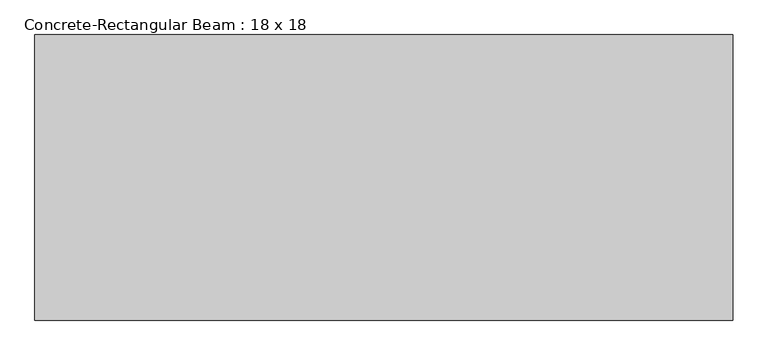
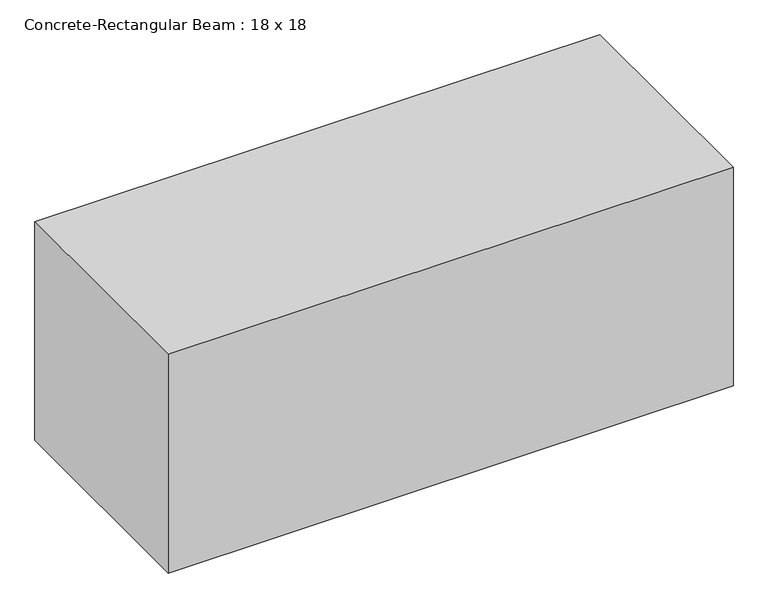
"""IFC4 building model written with IfcOpenShell, lengths in millimetres: beam geometry, Concrete-Rectangular Beam : 18 x 18."""

from ifc_helpers import new_model, si_unit, frame, origin, place, context, project, spatial, polyline, outline, extrude, source, transform, mapped, element, save


def concrete_rectangular_beam_18_x_18_bb97956a(model_context):
    return source(origin(), model_context, "Body", "SweptSolid", [
        extrude(outline(polyline([(558.8, -228.6), (-558.8, -228.6), (-558.8, 228.6), (558.8, 228.6), (558.8, -228.6)])), frame((0.0, 0.0, -228.6), z_axis=(0.0, 0.0, 1.0), x_axis=(1.0, 0.0, 0.0)), (0.0, 0.0, 1.0), 457.2),
    ])


if __name__ == "__main__":
    model = new_model("IFC4")
    model_context = context("Model", 3, world=origin())
    ifc_project = project(units=[si_unit("LENGTHUNIT", "METRE", prefix="MILLI")], contexts=[model_context])
    site = spatial("IfcSite", under=ifc_project)
    building = spatial("IfcBuilding", under=site)
    placement = place(None, origin())
    concrete_rectangular_beam_18_x_18_shape = concrete_rectangular_beam_18_x_18_bb97956a(model_context)
    element("IfcBeam", 1, ObjectType="Concrete-Rectangular Beam : 18 x 18", at=placement, inside=building, context=model_context, shape_type="MappedRepresentation", body=[
        mapped(concrete_rectangular_beam_18_x_18_shape, transform((0.0, 0.0, 0.0), x_axis=(1.0, 0.0, 0.0), y_axis=(0.0, 1.0, 0.0), z_axis=(0.0, 0.0, 1.0))),
    ])
    save(model, "model.ifc")
